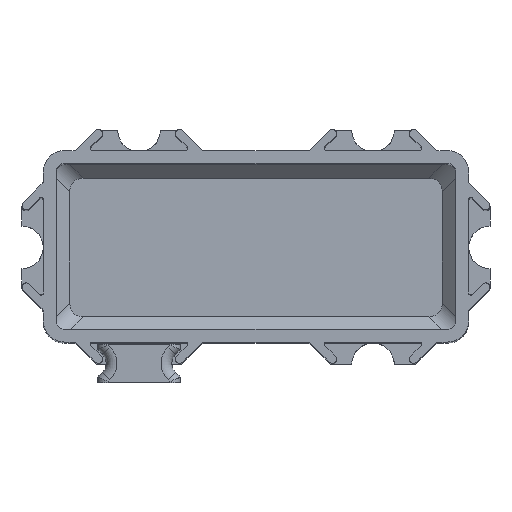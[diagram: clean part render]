
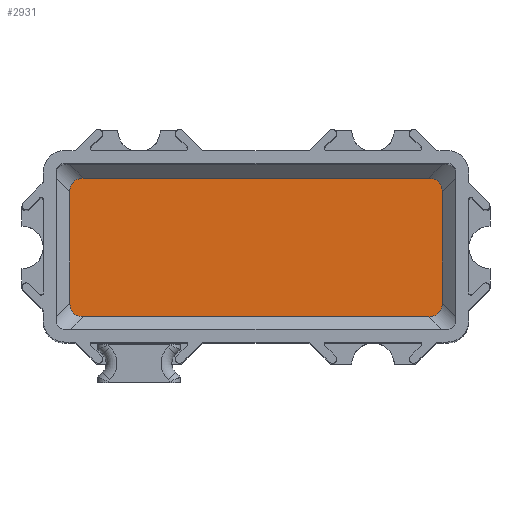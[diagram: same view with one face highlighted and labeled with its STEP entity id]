
A CAD part, top view. The second image highlights one B-rep face of the part: STEP entity #2931.
In plain terms, the highlighted planar face has unit normal (0, 0, 1).
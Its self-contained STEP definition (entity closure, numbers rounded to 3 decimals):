
#220=LINE('',#4792,#476);
#226=LINE('',#4825,#482);
#237=LINE('',#4884,#493);
#239=LINE('',#4887,#495);
#476=VECTOR('',#3907,10.);
#482=VECTOR('',#3927,10.);
#493=VECTOR('',#3964,10.);
#495=VECTOR('',#3968,10.);
#604=PLANE('',#3224);
#727=FACE_OUTER_BOUND('',#879,.T.);
#879=EDGE_LOOP('',(#2388,#2389,#2390,#2391,#2392,#2393,#2394,#2395));
#954=ELLIPSE('',#3198,3.118,1.8);
#958=ELLIPSE('',#3206,3.118,1.8);
#961=ELLIPSE('',#3214,3.118,1.8);
#963=ELLIPSE('',#3218,3.118,1.8);
#1278=VERTEX_POINT('',#4762);
#1279=VERTEX_POINT('',#4763);
#1284=VERTEX_POINT('',#4791);
#1287=VERTEX_POINT('',#4801);
#1290=VERTEX_POINT('',#4824);
#1294=VERTEX_POINT('',#4847);
#1298=VERTEX_POINT('',#4872);
#1299=VERTEX_POINT('',#4873);
#1642=EDGE_CURVE('',#1278,#1279,#954,.T.);
#1650=EDGE_CURVE('',#1284,#1278,#220,.T.);
#1655=EDGE_CURVE('',#1287,#1284,#958,.T.);
#1660=EDGE_CURVE('',#1290,#1287,#226,.T.);
#1667=EDGE_CURVE('',#1294,#1290,#961,.T.);
#1673=EDGE_CURVE('',#1298,#1299,#963,.T.);
#1679=EDGE_CURVE('',#1299,#1294,#237,.T.);
#1681=EDGE_CURVE('',#1279,#1298,#239,.T.);
#2388=ORIENTED_EDGE('',*,*,#1642,.T.);
#2389=ORIENTED_EDGE('',*,*,#1681,.T.);
#2390=ORIENTED_EDGE('',*,*,#1673,.T.);
#2391=ORIENTED_EDGE('',*,*,#1679,.T.);
#2392=ORIENTED_EDGE('',*,*,#1667,.T.);
#2393=ORIENTED_EDGE('',*,*,#1660,.T.);
#2394=ORIENTED_EDGE('',*,*,#1655,.T.);
#2395=ORIENTED_EDGE('',*,*,#1650,.T.);
#2931=ADVANCED_FACE('',(#727),#604,.F.);
#3198=AXIS2_PLACEMENT_3D('',#4764,#3893,#3894);
#3206=AXIS2_PLACEMENT_3D('',#4802,#3917,#3918);
#3214=AXIS2_PLACEMENT_3D('',#4848,#3940,#3941);
#3218=AXIS2_PLACEMENT_3D('',#4874,#3951,#3952);
#3224=AXIS2_PLACEMENT_3D('',#4888,#3969,#3970);
#3893=DIRECTION('center_axis',(0.,0.,1.));
#3894=DIRECTION('ref_axis',(-0.707,0.707,0.));
#3907=DIRECTION('',(-1.,0.,0.));
#3917=DIRECTION('center_axis',(0.,0.,1.));
#3918=DIRECTION('ref_axis',(0.707,0.707,0.));
#3927=DIRECTION('',(0.,1.,0.));
#3940=DIRECTION('center_axis',(0.,0.,1.));
#3941=DIRECTION('ref_axis',(0.707,-0.707,0.));
#3951=DIRECTION('center_axis',(0.,0.,1.));
#3952=DIRECTION('ref_axis',(-0.707,-0.707,0.));
#3964=DIRECTION('',(1.,0.,0.));
#3968=DIRECTION('',(0.,-1.,0.));
#3969=DIRECTION('center_axis',(0.,0.,-1.));
#3970=DIRECTION('ref_axis',(-1.,0.,0.));
#4762=CARTESIAN_POINT('',(5.77,17.503,-60.));
#4763=CARTESIAN_POINT('',(4.497,16.23,-60.));
#4764=CARTESIAN_POINT('Origin',(7.043,14.957,-60.));
#4791=CARTESIAN_POINT('',(38.23,17.503,-60.));
#4792=CARTESIAN_POINT('',(17.,17.503,-60.));
#4801=CARTESIAN_POINT('',(39.503,16.23,-60.));
#4802=CARTESIAN_POINT('Origin',(36.957,14.957,-60.));
#4824=CARTESIAN_POINT('',(39.503,5.77,-60.));
#4825=CARTESIAN_POINT('',(39.503,13.25,-60.));
#4847=CARTESIAN_POINT('',(38.23,4.497,-60.));
#4848=CARTESIAN_POINT('Origin',(36.957,7.043,-60.));
#4872=CARTESIAN_POINT('',(4.497,5.77,-60.));
#4873=CARTESIAN_POINT('',(5.77,4.497,-60.));
#4874=CARTESIAN_POINT('Origin',(7.043,7.043,-60.));
#4884=CARTESIAN_POINT('',(27.,4.497,-60.));
#4887=CARTESIAN_POINT('',(4.497,8.75,-60.));
#4888=CARTESIAN_POINT('Origin',(22.,11.,-60.));
